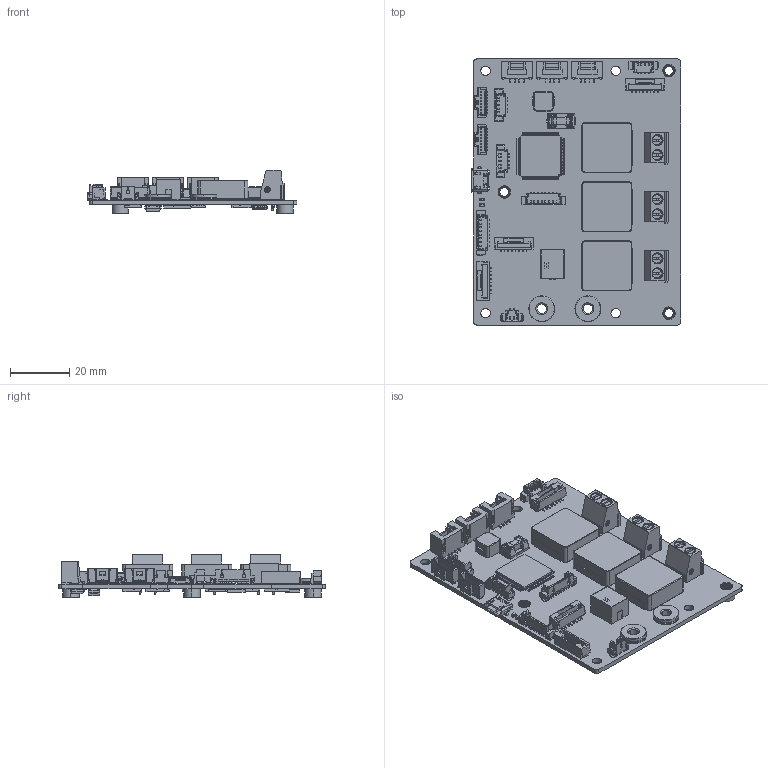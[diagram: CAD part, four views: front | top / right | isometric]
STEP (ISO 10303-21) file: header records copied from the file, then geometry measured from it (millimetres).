
FILE_DESCRIPTION (( 'STEP AP203' ), '1' );
FILE_NAME ('VTC1503-A.STEP', '2023-07-27T10:00:57', ( '' ), ( '' ), 'SwSTEP 2.0', 'SolidWorks 2020', '' );
FILE_SCHEMA (( 'CONFIG_CONTROL_DESIGN' ));
Length unit declared in the file: millimetre
Products named in the file (1): VTC1503-A
Bounding box: 70.84 x 90 x 14.63 mm (x, y, z)
Surface area: 29947 mm2 (no closed solid volume)
Topology: 0 solids, 213 shells, 9286 faces, 24779 edges, 16237 vertices
Faces by surface type: plane 7367, cylinder 1603, bspline 140, cone 108, torus 58, sphere 10
Entity records: 295232 total; most frequent: CARTESIAN_POINT 63164, ORIENTED_EDGE 49440, DIRECTION 45479, EDGE_CURVE 24756, LINE 20725, VECTOR 20725, VERTEX_POINT 16238, AXIS2_PLACEMENT_3D 12377
